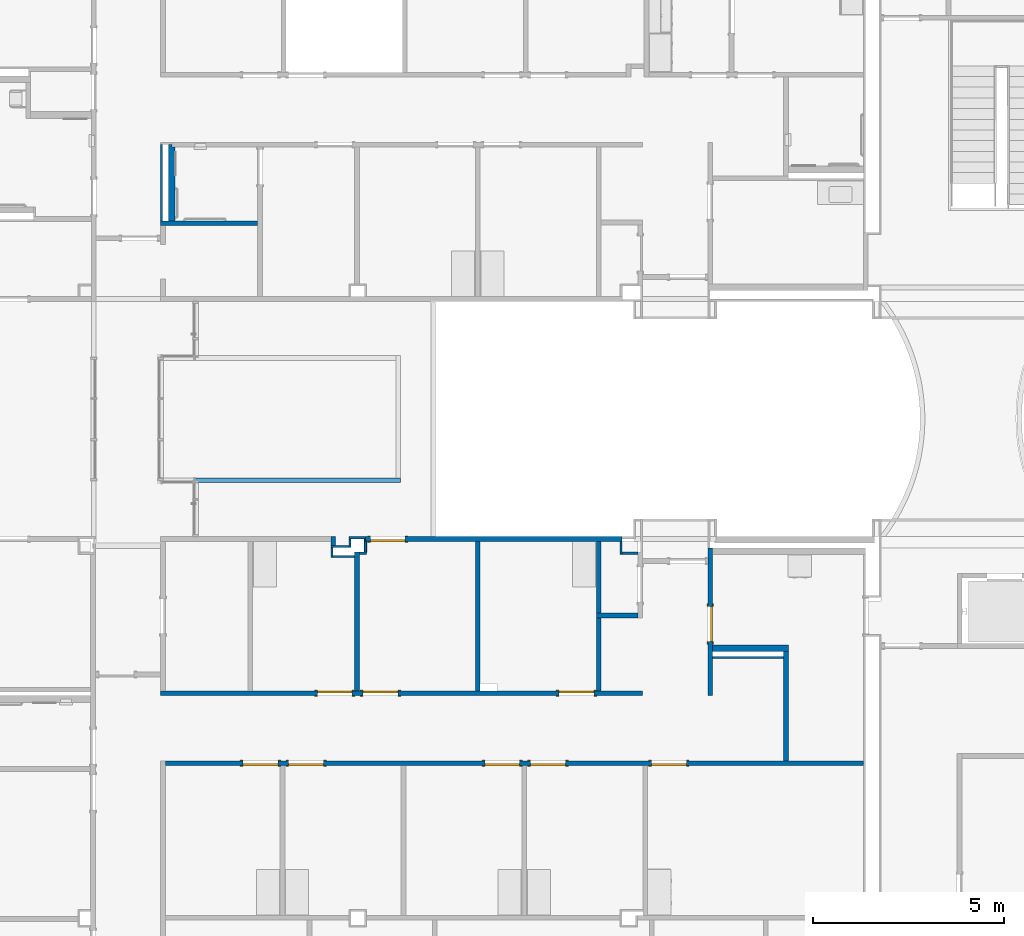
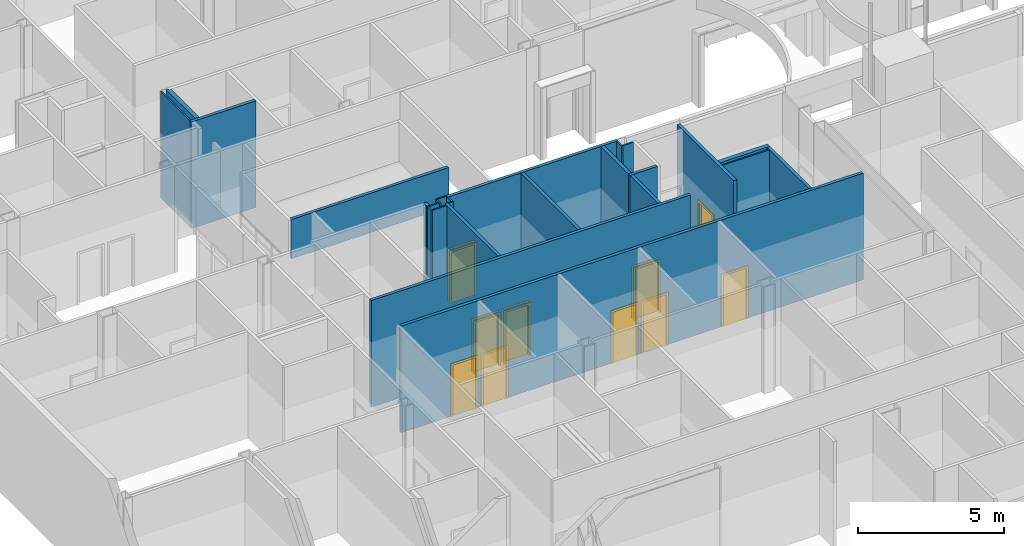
# One storey, part 28 of 87: 26 walls, 10 doors, 10 openings.
"""IFC2X3 building model written with IfcOpenShell, lengths in metres."""

from ifc_helpers import new_model, entity, si_unit, converted_unit, frame, frame_2d, origin, origin_2d_with_axis, place, context, project, spatial, polyline, rectangle, outline, extrude, source, transform, mapped, material, layer, layer_set, layer_usage, type_object, type_shapes, element, fill, save


model = new_model("IFC2X3")

# Units and contexts
model_context = context("Model", 3, precision=1e-09, world=origin())
plan_context = context("Plan", 3, precision=1e-09, world=origin())
ifc_project = project(units=[si_unit("LENGTHUNIT", "METRE"), si_unit("AREAUNIT", "SQUARE_METRE"), si_unit("VOLUMEUNIT", "CUBIC_METRE"), converted_unit("PLANEANGLEUNIT", "DEGREE", entity("IfcRatioMeasure", 0.01745329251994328), si_unit("PLANEANGLEUNIT", "RADIAN"), dimensions=[0, 0, 0, 0, 0, 0, 0]), si_unit("TIMEUNIT", "SECOND")], contexts=[model_context, plan_context])

# Site, building, storey
site_placement = place(None, origin())
site = spatial("IfcSite", under=ifc_project, at=site_placement, Name="Default", CompositionType="ELEMENT")
building_placement = place(site_placement, origin())
building = spatial("IfcBuilding", under=site, at=building_placement, CompositionType="ELEMENT")
storey_placement = place(building_placement, origin())
storey = spatial("IfcBuildingStorey", under=building, at=storey_placement, Name="First Floor", CompositionType="ELEMENT", Elevation=-3.531500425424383e-13)

# Walls
ifc_material_1 = material(Name="Plasterboard")
ifc_layer_1 = layer(ifc_material_1, 0.016)
ifc_material_2 = material(Name="Metal - Stud Layer")
ifc_layer_2 = layer(ifc_material_2, 0.092)
ifc_layer_3 = layer(ifc_material_1, 0.016)
ifc_layer_set_1 = layer_set([ifc_layer_1, ifc_layer_2, ifc_layer_3], Name="Basic Wall:Interior - Partition (92mm Stud)")
ifc_layer_usage_1 = layer_usage(ifc_layer_set_1, "AXIS2", "NEGATIVE", 0.062)
wall_1_placement = place(storey_placement, frame((-36.17400000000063, 36.83199999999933, 0.0), z_axis=(0.0, 0.0, 1.0), x_axis=(-1.0, 0.0, 0.0)))
element("IfcWallStandardCase", 1, at=wall_1_placement, inside=storey, material=ifc_layer_usage_1, Name="Basic Wall:Interior - Partition (92mm Stud)", ObjectType="Basic Wall:Interior - Partition (92mm Stud)", context=model_context, shape_type="SweptSolid", body=[
    extrude(rectangle(XDim=2.545999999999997, YDim=0.1239999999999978, at=frame_2d((1.272999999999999, 0.0), x_axis=(-1.0, 0.0))), origin(), (0.0, 0.0, 1.0), 4.46800000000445),
])
ifc_layer_4 = layer(ifc_material_2, 0.152)
ifc_layer_5 = layer(ifc_material_1, 0.016)
ifc_layer_set_2 = layer_set([ifc_layer_4, ifc_layer_5], Name="Basic Wall:Interior - Furring (152 mm Stud)")
ifc_layer_usage_2 = layer_usage(ifc_layer_set_2, "AXIS2", "POSITIVE", -0.08399999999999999)
wall_2_placement = place(storey_placement, frame((-38.42400000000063, 38.89599999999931, 0.0), z_axis=(0.0, 0.0, 1.0), x_axis=(0.0, -1.0, 0.0)))
element("IfcWallStandardCase", 2, at=wall_2_placement, inside=storey, material=ifc_layer_usage_2, Name="Basic Wall:Interior - Furring (152 mm Stud)", ObjectType="Basic Wall:Interior - Furring (152 mm Stud)", context=model_context, shape_type="SweptSolid", body=[
    extrude(outline(polyline([(2.001999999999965, -0.08400000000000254), (2.001999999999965, 0.08399999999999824), (0.07000000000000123, 0.08399999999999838), (0.07000000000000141, 0.0), (0.0, 0.0), (0.0, -0.08400000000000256), (2.001999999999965, -0.08400000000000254)])), origin(), (0.0, 0.0, 1.0), 4.468000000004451),
])

# Wall, openings, doors
ifc_layer_usage_3 = layer_usage(ifc_layer_set_1, "AXIS2", "NEGATIVE", 0.062)
wall_3_placement = place(storey_placement, frame((-38.59600000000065, 22.6679999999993, 0.0)))
wall_3 = element("IfcWallStandardCase", 3, at=wall_3_placement, inside=storey, material=ifc_layer_usage_3, Name="Basic Wall:Interior - Partition (92mm Stud)", ObjectType="Basic Wall:Interior - Partition (92mm Stud)", context=model_context, shape_type="SweptSolid", body=[
    extrude(rectangle(XDim=18.306, YDim=0.1239999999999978, at=frame_2d((9.152999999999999, 0.0), x_axis=(-1.0, 0.0))), origin(), (0.0, 0.0, 1.0), 4.468000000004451),
])
opening_1_placement = place(wall_3_placement, frame((2.952000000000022, 0.06199999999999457, 0.0)))
opening_1 = element("IfcOpeningElement", 4, at=opening_1_placement, cuts=wall_3, Name="M_Single-Flush:0915 x 2134mm:0915 x 2134mm:1", ObjectType="Opening", context=model_context, shape_type="SweptSolid", body=[
    extrude(rectangle(XDim=0.9149999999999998, YDim=2.134, at=frame_2d((1.067, 0.4574999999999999), x_axis=(0.0, -1.0))), frame((0.0, 0.0, 0.0), z_axis=(0.0, -1.0, 0.0), x_axis=(0.0, 0.0, 1.0)), (0.0, 0.0, 1.0), 0.124),
])
opening_2_placement = place(wall_3_placement, frame((4.151000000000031, 0.06199999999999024, 0.0)))
opening_2 = element("IfcOpeningElement", 5, at=opening_2_placement, cuts=wall_3, Name="M_Single-Flush:0915 x 2134mm:0915 x 2134mm:1", ObjectType="Opening", context=model_context, shape_type="SweptSolid", body=[
    extrude(rectangle(XDim=0.9149999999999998, YDim=2.134, at=frame_2d((1.067, 0.4575), x_axis=(0.0, 1.0))), frame((0.0, 0.0, 0.0), z_axis=(0.0, -1.0, 0.0), x_axis=(0.0, 0.0, 1.0)), (0.0, 0.0, 1.0), 0.124),
])
opening_3_placement = place(wall_3_placement, frame((9.292000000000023, 0.06199999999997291, 0.0)))
opening_3 = element("IfcOpeningElement", 6, at=opening_3_placement, cuts=wall_3, Name="M_Single-Flush:0915 x 2134mm:0915 x 2134mm:1", ObjectType="Opening", context=model_context, shape_type="SweptSolid", body=[
    extrude(rectangle(XDim=0.9149999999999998, YDim=2.134, at=frame_2d((1.067, 0.4574999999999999), x_axis=(0.0, -1.0))), frame((0.0, 0.0, 0.0), z_axis=(0.0, -1.0, 0.0), x_axis=(0.0, 0.0, 1.0)), (0.0, 0.0, 1.0), 0.124),
])
opening_4_placement = place(wall_3_placement, frame((10.49100000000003, 0.06199999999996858, 0.0)))
opening_4 = element("IfcOpeningElement", 7, at=opening_4_placement, cuts=wall_3, Name="M_Single-Flush:0915 x 2134mm:0915 x 2134mm:1", ObjectType="Opening", context=model_context, shape_type="SweptSolid", body=[
    extrude(rectangle(XDim=0.9149999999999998, YDim=2.134, at=frame_2d((1.067, 0.4575), x_axis=(0.0, 1.0))), frame((0.0, 0.0, 0.0), z_axis=(0.0, -1.0, 0.0), x_axis=(0.0, 0.0, 1.0)), (0.0, 0.0, 1.0), 0.124),
])
opening_5_placement = place(wall_3_placement, frame((13.66100000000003, 0.06199999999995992, 0.0)))
opening_5 = element("IfcOpeningElement", 8, at=opening_5_placement, cuts=wall_3, Name="M_Single-Flush:0915 x 2134mm:0915 x 2134mm:1", ObjectType="Opening", context=model_context, shape_type="SweptSolid", body=[
    extrude(rectangle(XDim=0.9149999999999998, YDim=2.134, at=frame_2d((1.067, 0.4575), x_axis=(0.0, 1.0))), frame((0.0, 0.0, 0.0), z_axis=(0.0, -1.0, 0.0), x_axis=(0.0, 0.0, 1.0)), (0.0, 0.0, 1.0), 0.124),
])
door_style_1 = type_object("IfcDoorStyle", Name="0915 x 2134mm", ConstructionType="NOTDEFINED", OperationType="SINGLE_SWING_RIGHT", ParameterTakesPrecedence=False, Sizeable=False)
shared_shape_1 = source(origin(), model_context, "Body", "SweptSolid", [
    extrude(outline(polyline([(-0.5335, -1.123999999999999), (0.5334999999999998, -1.123999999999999), (0.5334999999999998, 1.086), (0.4574999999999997, 1.086), (0.4574999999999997, -1.048000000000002), (-0.4574999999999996, -1.048000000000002), (-0.4574999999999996, 1.086), (-0.5335, 1.086), (-0.5335, -1.123999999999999)])), frame((0.4575000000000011, 0.1239999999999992, 1.086), z_axis=(0.0, 1.0, 0.0), x_axis=(1.0, 0.0, 0.0)), (0.0, 0.0, 1.0), 0.02499999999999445),
    extrude(outline(polyline([(-1.123999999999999, -0.5334999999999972), (1.085999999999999, -0.5334999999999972), (1.085999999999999, -0.4575000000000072), (-1.048, -0.4575000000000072), (-1.048, 0.4575000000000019), (1.085999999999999, 0.4575000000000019), (1.085999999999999, 0.5335000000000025), (-1.123999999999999, 0.5335000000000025), (-1.123999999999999, -0.5334999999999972)])), frame((0.4575000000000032, -0.02500000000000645, 1.085999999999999), z_axis=(0.0, 1.0, 0.0), x_axis=(0.0, 0.0, -1.0)), (0.0, 0.0, 1.0), 0.02500000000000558),
    extrude(rectangle(XDim=0.051, YDim=0.9149999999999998, at=origin_2d_with_axis()), frame((0.4575000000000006, 0.09849999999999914, 0.0), z_axis=(0.0, 0.0, 1.0), x_axis=(0.0, 1.0, 0.0)), (0.0, 0.0, 1.0), 2.133999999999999),
])
type_shapes(door_style_1, [shared_shape_1])
door_1_placement = place(opening_2_placement, frame((0.0, 0.0, 0.0), z_axis=(0.0, 0.0, 1.0), x_axis=(-1.0, 0.0, 0.0)))
door_1 = element("IfcDoor", 9, at=door_1_placement, inside=storey, type_object=door_style_1, Name="M_Single-Flush:0915 x 2134mm:0915 x 2134mm", ObjectType="0915 x 2134mm", OverallHeight=2.134, OverallWidth=0.9149999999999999, context=model_context, shape_type="MappedRepresentation", body=[
    mapped(shared_shape_1, transform((0.0, 0.0, 0.0), scale=1.0)),
])
fill(opening_2, door_1)
door_2_placement = place(opening_4_placement, frame((0.0, 0.0, 0.0), z_axis=(0.0, 0.0, 1.0), x_axis=(-1.0, 0.0, 0.0)))
door_2 = element("IfcDoor", 10, at=door_2_placement, inside=storey, type_object=door_style_1, Name="M_Single-Flush:0915 x 2134mm:0915 x 2134mm", ObjectType="0915 x 2134mm", OverallHeight=2.134, OverallWidth=0.9149999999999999, context=model_context, shape_type="MappedRepresentation", body=[
    mapped(shared_shape_1, transform((0.0, 0.0, 0.0), scale=1.0)),
])
fill(opening_4, door_2)
door_3_placement = place(opening_5_placement, frame((0.0, 0.0, 0.0), z_axis=(0.0, 0.0, 1.0), x_axis=(-1.0, 0.0, 0.0)))
door_3 = element("IfcDoor", 11, at=door_3_placement, inside=storey, type_object=door_style_1, Name="M_Single-Flush:0915 x 2134mm:0915 x 2134mm", ObjectType="0915 x 2134mm", OverallHeight=2.134, OverallWidth=0.9149999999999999, context=model_context, shape_type="MappedRepresentation", body=[
    mapped(shared_shape_1, transform((0.0, 0.0, 0.0), scale=1.0)),
])
fill(opening_5, door_3)
door_style_2 = type_object("IfcDoorStyle", Name="0915 x 2134mm", ConstructionType="NOTDEFINED", OperationType="SINGLE_SWING_LEFT", ParameterTakesPrecedence=False, Sizeable=False)
shared_shape_2 = source(origin(), model_context, "Body", "SweptSolid", [
    extrude(outline(polyline([(-0.5335, -1.123999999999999), (0.5334999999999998, -1.123999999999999), (0.5334999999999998, 1.086), (0.4574999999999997, 1.086), (0.4574999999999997, -1.048000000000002), (-0.4574999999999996, -1.048000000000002), (-0.4574999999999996, 1.086), (-0.5335, 1.086), (-0.5335, -1.123999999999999)])), frame((0.4575000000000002, 0.1489999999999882, 1.086), z_axis=(0.0, -1.0, 0.0), x_axis=(-1.0, 0.0, 0.0)), (0.0, 0.0, 1.0), 0.02499999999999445),
    extrude(outline(polyline([(-1.123999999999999, -0.5334999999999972), (1.085999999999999, -0.5334999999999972), (1.085999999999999, -0.4575000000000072), (-1.048, -0.4575000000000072), (-1.048, 0.4575000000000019), (1.085999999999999, 0.4575000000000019), (1.085999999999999, 0.5335000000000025), (-1.123999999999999, 0.5335000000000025), (-1.123999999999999, -0.5334999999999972)])), frame((0.4574999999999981, 0.0, 1.085999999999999), z_axis=(0.0, -1.0, 0.0), x_axis=(0.0, 0.0, -1.0)), (0.0, 0.0, 1.0), 0.02500000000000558),
    extrude(rectangle(XDim=0.9149999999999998, YDim=0.051, at=origin_2d_with_axis()), frame((0.4575000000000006, 0.09849999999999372, 0.0)), (0.0, 0.0, 1.0), 2.133999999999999),
])
type_shapes(door_style_2, [shared_shape_2])
door_4_placement = place(opening_1_placement, frame((0.0, 0.0, 0.0), z_axis=(0.0, 0.0, 1.0), x_axis=(-1.0, 0.0, 0.0)))
door_4 = element("IfcDoor", 12, at=door_4_placement, inside=storey, type_object=door_style_2, Name="M_Single-Flush:0915 x 2134mm:0915 x 2134mm", ObjectType="0915 x 2134mm", OverallHeight=2.134, OverallWidth=0.9149999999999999, context=model_context, shape_type="MappedRepresentation", body=[
    mapped(shared_shape_2, transform((0.0, 0.0, 0.0), scale=1.0)),
])
fill(opening_1, door_4)
door_5_placement = place(opening_3_placement, frame((0.0, 0.0, 0.0), z_axis=(0.0, 0.0, 1.0), x_axis=(-1.0, 0.0, 0.0)))
door_5 = element("IfcDoor", 13, at=door_5_placement, inside=storey, type_object=door_style_2, Name="M_Single-Flush:0915 x 2134mm:0915 x 2134mm", ObjectType="0915 x 2134mm", OverallHeight=2.134, OverallWidth=0.9149999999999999, context=model_context, shape_type="MappedRepresentation", body=[
    mapped(shared_shape_2, transform((0.0, 0.0, 0.0), scale=1.0)),
])
fill(opening_3, door_5)

# Wall, opening, door
ifc_layer_usage_4 = layer_usage(ifc_layer_set_1, "AXIS2", "NEGATIVE", 0.062)
wall_4_placement = place(storey_placement, frame((-24.30800000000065, 24.43999999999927, 0.0), z_axis=(0.0, 0.0, 1.0), x_axis=(0.0, 1.0, 0.0)))
wall_4 = element("IfcWallStandardCase", 14, at=wall_4_placement, inside=storey, material=ifc_layer_usage_4, Name="Basic Wall:Interior - Partition (92mm Stud)", ObjectType="Basic Wall:Interior - Partition (92mm Stud)", context=model_context, shape_type="SweptSolid", body=[
    extrude(rectangle(XDim=3.878000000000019, YDim=0.1239999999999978, at=frame_2d((1.93900000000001, 0.0), x_axis=(-1.0, 0.0))), origin(), (0.0, 0.0, 1.0), 4.46800000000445),
])
opening_6_placement = place(wall_4_placement, frame((2.341000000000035, 0.0619999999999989, 0.0)))
opening_6 = element("IfcOpeningElement", 15, at=opening_6_placement, cuts=wall_4, Name="M_Single-Flush:0915 x 2134mm:0915 x 2134mm:1", ObjectType="Opening", context=model_context, shape_type="SweptSolid", body=[
    extrude(rectangle(XDim=0.9149999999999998, YDim=2.134, at=frame_2d((1.067, 0.4575), x_axis=(0.0, 1.0))), frame((0.0, 0.0, 0.0), z_axis=(0.0, -1.0, 0.0), x_axis=(0.0, 0.0, 1.0)), (0.0, 0.0, 1.0), 0.124),
])
door_6_placement = place(opening_6_placement, frame((0.0, 0.0, 0.0), z_axis=(0.0, 0.0, 1.0), x_axis=(-1.0, 0.0, 0.0)))
door_6 = element("IfcDoor", 16, at=door_6_placement, inside=storey, type_object=door_style_1, Name="M_Single-Flush:0915 x 2134mm:0915 x 2134mm", ObjectType="0915 x 2134mm", OverallHeight=2.134, OverallWidth=0.9149999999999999, context=model_context, shape_type="MappedRepresentation", body=[
    mapped(shared_shape_1, transform((0.0, 0.0, 0.0), scale=1.0)),
])
fill(opening_6, door_6)

# Walls
ifc_layer_usage_5 = layer_usage(ifc_layer_set_1, "AXIS2", "NEGATIVE", 0.062)
wall_5_placement = place(storey_placement, frame((-22.31800000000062, 22.72999999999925, 0.0), z_axis=(0.0, 0.0, 1.0), x_axis=(0.0, 1.0, 0.0)))
element("IfcWallStandardCase", 17, at=wall_5_placement, inside=storey, material=ifc_layer_usage_5, Name="Basic Wall:Interior - Partition (92mm Stud)", ObjectType="Basic Wall:Interior - Partition (92mm Stud)", context=model_context, shape_type="SweptSolid", body=[
    extrude(rectangle(XDim=2.86800000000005, YDim=0.1239999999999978, at=frame_2d((1.434000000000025, 0.0), x_axis=(-1.0, 0.0))), origin(), (0.0, 0.0, 1.0), 4.46800000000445),
])
ifc_layer_6 = layer(ifc_material_2, 0.038)
ifc_layer_7 = layer(ifc_material_1, 0.016)
ifc_layer_set_3 = layer_set([ifc_layer_6, ifc_layer_7], Name="Basic Wall:Interior - Furring (38 mm Stud)")
ifc_layer_usage_6 = layer_usage(ifc_layer_set_3, "AXIS2", "POSITIVE", -0.027)
wall_6_placement = place(storey_placement, frame((-22.38000000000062, 25.44699999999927, 0.0), z_axis=(0.0, 0.0, 1.0), x_axis=(-1.0, 0.0, 0.0)))
element("IfcWallStandardCase", 18, at=wall_6_placement, inside=storey, material=ifc_layer_usage_6, Name="Basic Wall:Interior - Furring (38 mm Stud)", ObjectType="Basic Wall:Interior - Furring (38 mm Stud)", context=model_context, shape_type="SweptSolid", body=[
    extrude(rectangle(XDim=1.866000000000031, YDim=0.05399999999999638, at=frame_2d((0.9330000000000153, 0.0), x_axis=(-1.0, 0.0))), origin(), (0.0, 0.0, 1.0), 4.46800000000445),
])
ifc_layer_usage_7 = layer_usage(ifc_layer_set_2, "AXIS2", "POSITIVE", -0.08399999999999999)
wall_7_placement = place(storey_placement, frame((-24.24600000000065, 25.6819999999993, 0.0)))
element("IfcWallStandardCase", 19, at=wall_7_placement, inside=storey, material=ifc_layer_usage_7, Name="Basic Wall:Interior - Furring (152 mm Stud)", ObjectType="Basic Wall:Interior - Furring (152 mm Stud)", context=model_context, shape_type="SweptSolid", body=[
    extrude(rectangle(XDim=1.990000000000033, YDim=0.1679999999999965, at=frame_2d((0.9950000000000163, 0.0), x_axis=(-1.0, 0.0))), origin(), (0.0, 0.0, 1.0), 4.46800000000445),
])
ifc_layer_usage_8 = layer_usage(ifc_layer_set_1, "AXIS2", "NEGATIVE", 0.062)
wall_8_placement = place(storey_placement, frame((-26.20400000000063, 26.54199999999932, 0.0), z_axis=(0.0, 0.0, 1.0), x_axis=(-1.0, 0.0, 0.0)))
element("IfcWallStandardCase", 20, at=wall_8_placement, inside=storey, material=ifc_layer_usage_8, Name="Basic Wall:Interior - Partition (92mm Stud)", ObjectType="Basic Wall:Interior - Partition (92mm Stud)", context=model_context, shape_type="SweptSolid", body=[
    extrude(rectangle(XDim=1.089999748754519, YDim=0.1239999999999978, at=frame_2d((0.5449998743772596, 0.0), x_axis=(-1.0, 0.0))), origin(), (0.0, 0.0, 1.0), 4.46800000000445),
])
ifc_layer_usage_9 = layer_usage(ifc_layer_set_1, "AXIS2", "NEGATIVE", 0.062)
wall_9_placement = place(storey_placement, frame((-27.23199974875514, 26.47999999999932, 0.0), z_axis=(0.0, 0.0, 1.0), x_axis=(0.0, -1.0, 0.0)))
element("IfcWallStandardCase", 21, at=wall_9_placement, inside=storey, material=ifc_layer_usage_9, Name="Basic Wall:Interior - Partition (92mm Stud)", ObjectType="Basic Wall:Interior - Partition (92mm Stud)", context=model_context, shape_type="SweptSolid", body=[
    extrude(rectangle(XDim=1.916000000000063, YDim=0.1239999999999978, at=frame_2d((0.9580000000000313, 0.0), x_axis=(-1.0, 0.0))), origin(), (0.0, 0.0, 1.0), 4.46800000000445),
])
ifc_layer_usage_10 = layer_usage(ifc_layer_set_1, "AXIS2", "NEGATIVE", 0.062)
wall_10_placement = place(storey_placement, frame((-27.23199974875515, 26.60399999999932, 0.0), z_axis=(0.0, 0.0, 1.0), x_axis=(0.0, 1.0, 0.0)))
element("IfcWallStandardCase", 22, at=wall_10_placement, inside=storey, material=ifc_layer_usage_10, Name="Basic Wall:Interior - Partition (92mm Stud)", ObjectType="Basic Wall:Interior - Partition (92mm Stud)", context=model_context, shape_type="SweptSolid", body=[
    extrude(rectangle(XDim=1.881999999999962, YDim=0.1239999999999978, at=frame_2d((0.940999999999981, 0.0), x_axis=(-1.0, 0.0))), origin(), (0.0, 0.0, 1.0), 4.46800000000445),
])
ifc_layer_usage_11 = layer_usage(ifc_layer_set_1, "AXIS2", "NEGATIVE", 0.062)
wall_11_placement = place(storey_placement, frame((-30.40200000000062, 28.48599999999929, 0.0), z_axis=(0.0, 0.0, 1.0), x_axis=(0.0, -1.0, 0.0)))
element("IfcWallStandardCase", 23, at=wall_11_placement, inside=storey, material=ifc_layer_usage_11, Name="Basic Wall:Interior - Partition (92mm Stud)", ObjectType="Basic Wall:Interior - Partition (92mm Stud)", context=model_context, shape_type="SweptSolid", body=[
    extrude(rectangle(XDim=3.922000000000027, YDim=0.1239999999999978, at=frame_2d((1.961000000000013, 0.0), x_axis=(-1.0, 0.0))), origin(), (0.0, 0.0, 1.0), 4.46800000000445),
])
ifc_layer_usage_12 = layer_usage(ifc_layer_set_1, "AXIS2", "NEGATIVE", 0.062)
wall_12_placement = place(storey_placement, frame((-33.57200000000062, 28.20399999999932, 0.0), z_axis=(0.0, 0.0, 1.0), x_axis=(0.0, -1.0, 0.0)))
element("IfcWallStandardCase", 24, at=wall_12_placement, inside=storey, material=ifc_layer_usage_12, Name="Basic Wall:Interior - Partition (92mm Stud)", ObjectType="Basic Wall:Interior - Partition (92mm Stud)", context=model_context, shape_type="SweptSolid", body=[
    extrude(rectangle(XDim=3.640000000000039, YDim=0.1239999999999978, at=frame_2d((1.820000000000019, 0.0), x_axis=(-1.0, 0.0))), origin(), (0.0, 0.0, 1.0), 4.46800000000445),
])

# Wall, opening, door
ifc_layer_usage_13 = layer_usage(ifc_layer_set_1, "AXIS2", "NEGATIVE", 0.062)
wall_13_placement = place(storey_placement, frame((-33.34700000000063, 28.54799999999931, 0.0)))
wall_13 = element("IfcWallStandardCase", 25, at=wall_13_placement, inside=storey, material=ifc_layer_usage_13, Name="Basic Wall:Interior - Partition (92mm Stud)", ObjectType="Basic Wall:Interior - Partition (92mm Stud)", context=model_context, shape_type="SweptSolid", body=[
    extrude(rectangle(XDim=6.730999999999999, YDim=0.1239999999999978, at=frame_2d((3.3655, 0.0), x_axis=(-1.0, 0.0))), origin(), (0.0, 0.0, 1.0), 4.46800000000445),
])
opening_7_placement = place(wall_13_placement, frame((1.042000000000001, 0.0619999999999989, 0.0)))
opening_7 = element("IfcOpeningElement", 26, at=opening_7_placement, cuts=wall_13, Name="M_Single-Flush:0915 x 2134mm:0915 x 2134mm:1", ObjectType="Opening", context=model_context, shape_type="SweptSolid", body=[
    extrude(rectangle(XDim=0.9149999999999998, YDim=2.134, at=frame_2d((1.067, 0.4575), x_axis=(0.0, 1.0))), frame((0.0, 0.0, 0.0), z_axis=(0.0, -1.0, 0.0), x_axis=(0.0, 0.0, 1.0)), (0.0, 0.0, 1.0), 0.124),
])
door_7_placement = place(opening_7_placement, frame((0.0, 0.0, 0.0), z_axis=(0.0, 0.0, 1.0), x_axis=(-1.0, 0.0, 0.0)))
door_7 = element("IfcDoor", 27, at=door_7_placement, inside=storey, type_object=door_style_1, Name="M_Single-Flush:0915 x 2134mm:0915 x 2134mm", ObjectType="0915 x 2134mm", OverallHeight=2.134, OverallWidth=0.9149999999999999, context=model_context, shape_type="MappedRepresentation", body=[
    mapped(shared_shape_1, transform((0.0, 0.0, 0.0), scale=1.0)),
])
fill(opening_7, door_7)

# Walls
ifc_layer_usage_14 = layer_usage(ifc_layer_set_1, "AXIS2", "NEGATIVE", 0.062)
wall_14_placement = place(storey_placement, frame((-34.1920000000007, 28.60999999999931, 0.0), z_axis=(0.0, 0.0, 1.0), x_axis=(0.0, -1.0, 0.0)))
element("IfcWallStandardCase", 28, at=wall_14_placement, inside=storey, material=ifc_layer_usage_14, Name="Basic Wall:Interior - Partition (92mm Stud)", ObjectType="Basic Wall:Interior - Partition (92mm Stud)", context=model_context, shape_type="SweptSolid", body=[
    extrude(rectangle(XDim=0.2300000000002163, YDim=0.1239999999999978, at=frame_2d((0.1150000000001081, 0.0), x_axis=(-1.0, 0.0))), origin(), (0.0, 0.0, 1.0), 4.46800000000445),
])
ifc_layer_usage_15 = layer_usage(ifc_layer_set_1, "AXIS2", "NEGATIVE", 0.062)
wall_15_placement = place(storey_placement, frame((-38.64500000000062, 30.09299999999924, 2.8)))
element("IfcWallStandardCase", 29, at=wall_15_placement, inside=storey, material=ifc_layer_usage_15, Name="Basic Wall:Interior - Partition (92mm Stud)", ObjectType="Basic Wall:Interior - Partition (92mm Stud)", context=model_context, shape_type="SweptSolid", body=[
    extrude(rectangle(XDim=6.220000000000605, YDim=0.1239999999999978, at=frame_2d((3.110000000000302, 0.0), x_axis=(-1.0, 0.0))), origin(), (0.0, 0.0, 1.0), 1.650000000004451),
])
ifc_layer_usage_16 = layer_usage(ifc_layer_set_3, "AXIS2", "NEGATIVE", 0.027)
wall_16_placement = place(storey_placement, frame((-26.64300000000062, 28.48599999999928, 0.0), z_axis=(0.0, 0.0, 1.0), x_axis=(0.0, -1.0, 0.0)))
element("IfcWallStandardCase", 30, at=wall_16_placement, inside=storey, material=ifc_layer_usage_16, Name="Basic Wall:Interior - Furring (38 mm Stud)", ObjectType="Basic Wall:Interior - Furring (38 mm Stud)", context=model_context, shape_type="SweptSolid", body=[
    extrude(rectangle(XDim=0.3359999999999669, YDim=0.05399999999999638, at=frame_2d((0.1679999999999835, 0.0), x_axis=(-1.0, 0.0))), origin(), (0.0, 0.0, 1.0), 4.46800000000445),
])
ifc_layer_usage_17 = layer_usage(ifc_layer_set_3, "AXIS2", "NEGATIVE", 0.027)
wall_17_placement = place(storey_placement, frame((-26.61600000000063, 28.17699999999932, 0.0)))
element("IfcWallStandardCase", 31, at=wall_17_placement, inside=storey, material=ifc_layer_usage_17, Name="Basic Wall:Interior - Furring (38 mm Stud)", ObjectType="Basic Wall:Interior - Furring (38 mm Stud)", context=model_context, shape_type="SweptSolid", body=[
    extrude(rectangle(XDim=0.4119999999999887, YDim=0.05399999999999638, at=frame_2d((0.2059999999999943, 0.0), x_axis=(-1.0, 0.0))), origin(), (0.0, 0.0, 1.0), 4.46800000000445),
])
ifc_layer_usage_18 = layer_usage(ifc_layer_set_3, "AXIS2", "NEGATIVE", 0.027)
wall_18_placement = place(storey_placement, frame((-33.34700000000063, 28.58299999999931, 0.0), z_axis=(0.0, 0.0, 1.0), x_axis=(-1.0, 0.0, 0.0)))
element("IfcWallStandardCase", 32, at=wall_18_placement, inside=storey, material=ifc_layer_usage_18, Name="Basic Wall:Interior - Furring (38 mm Stud)", ObjectType="Basic Wall:Interior - Furring (38 mm Stud)", context=model_context, shape_type="SweptSolid", body=[
    extrude(rectangle(XDim=0.4330000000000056, YDim=0.05399999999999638, at=frame_2d((0.2165000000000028, 0.0), x_axis=(-1.0, 0.0))), origin(), (0.0, 0.0, 1.0), 4.468000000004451),
])
ifc_layer_usage_19 = layer_usage(ifc_layer_set_3, "AXIS2", "NEGATIVE", 0.027)
wall_19_placement = place(storey_placement, frame((-33.75300000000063, 28.55599999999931, 0.0), z_axis=(0.0, 0.0, 1.0), x_axis=(0.0, -1.0, 0.0)))
element("IfcWallStandardCase", 33, at=wall_19_placement, inside=storey, material=ifc_layer_usage_19, Name="Basic Wall:Interior - Furring (38 mm Stud)", ObjectType="Basic Wall:Interior - Furring (38 mm Stud)", context=model_context, shape_type="SweptSolid", body=[
    extrude(rectangle(XDim=0.2300000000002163, YDim=0.05399999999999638, at=frame_2d((0.1150000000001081, 0.0), x_axis=(-1.0, 0.0))), origin(), (0.0, 0.0, 1.0), 4.46800000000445),
])
ifc_layer_usage_20 = layer_usage(ifc_layer_set_3, "AXIS2", "NEGATIVE", 0.027)
wall_20_placement = place(storey_placement, frame((-33.78000000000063, 28.35299999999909, 0.0), z_axis=(0.0, 0.0, 1.0), x_axis=(-1.0, 0.0, 0.0)))
element("IfcWallStandardCase", 34, at=wall_20_placement, inside=storey, material=ifc_layer_usage_20, Name="Basic Wall:Interior - Furring (38 mm Stud)", ObjectType="Basic Wall:Interior - Furring (38 mm Stud)", context=model_context, shape_type="SweptSolid", body=[
    extrude(rectangle(XDim=0.4740000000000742, YDim=0.05399999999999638, at=frame_2d((0.2370000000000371, 0.0), x_axis=(-1.0, 0.0))), origin(), (0.0, 0.0, 1.0), 4.468000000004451),
])
ifc_layer_usage_21 = layer_usage(ifc_layer_set_3, "AXIS2", "NEGATIVE", 0.027)
wall_21_placement = place(storey_placement, frame((-34.2270000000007, 28.32599999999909, 0.0), z_axis=(0.0, 0.0, 1.0), x_axis=(0.0, -1.0, 0.0)))
element("IfcWallStandardCase", 35, at=wall_21_placement, inside=storey, material=ifc_layer_usage_21, Name="Basic Wall:Interior - Furring (38 mm Stud)", ObjectType="Basic Wall:Interior - Furring (38 mm Stud)", context=model_context, shape_type="SweptSolid", body=[
    extrude(rectangle(XDim=0.261000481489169, YDim=0.05399999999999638, at=frame_2d((0.1305002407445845, 0.0), x_axis=(-1.0, 0.0))), origin(), (0.0, 0.0, 1.0), 4.46800000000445),
])
ifc_layer_usage_22 = layer_usage(ifc_layer_set_3, "AXIS2", "NEGATIVE", 0.027)
wall_22_placement = place(storey_placement, frame((-34.2000000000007, 28.09199951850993, 0.0)))
element("IfcWallStandardCase", 36, at=wall_22_placement, inside=storey, material=ifc_layer_usage_22, Name="Basic Wall:Interior - Furring (38 mm Stud)", ObjectType="Basic Wall:Interior - Furring (38 mm Stud)", context=model_context, shape_type="SweptSolid", body=[
    extrude(rectangle(XDim=0.5660000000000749, YDim=0.05399999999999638, at=frame_2d((0.2830000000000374, 0.0), x_axis=(-1.0, 0.0))), origin(), (0.0, 0.0, 1.0), 4.46800000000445),
])
ifc_layer_usage_23 = layer_usage(ifc_layer_set_3, "AXIS2", "NEGATIVE", 0.027)
wall_23_placement = place(storey_placement, frame((-33.51000000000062, 28.17699999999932, 0.0)))
element("IfcWallStandardCase", 37, at=wall_23_placement, inside=storey, material=ifc_layer_usage_23, Name="Basic Wall:Interior - Furring (38 mm Stud)", ObjectType="Basic Wall:Interior - Furring (38 mm Stud)", context=model_context, shape_type="SweptSolid", body=[
    extrude(rectangle(XDim=0.1900000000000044, YDim=0.05399999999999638, at=frame_2d((0.09500000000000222, 0.0), x_axis=(-1.0, 0.0))), origin(), (0.0, 0.0, 1.0), 4.46800000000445),
])
ifc_layer_usage_24 = layer_usage(ifc_layer_set_3, "AXIS2", "NEGATIVE", 0.027)
wall_24_placement = place(storey_placement, frame((-33.34700000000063, 28.20399999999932, 0.0), z_axis=(0.0, 0.0, 1.0), x_axis=(0.0, 1.0, 0.0)))
element("IfcWallStandardCase", 38, at=wall_24_placement, inside=storey, material=ifc_layer_usage_24, Name="Basic Wall:Interior - Furring (38 mm Stud)", ObjectType="Basic Wall:Interior - Furring (38 mm Stud)", context=model_context, shape_type="SweptSolid", body=[
    extrude(outline(polyline([(0.2819999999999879, -0.02700000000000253), (0.2819999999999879, 0.0), (0.3519999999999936, 0.0), (0.3519999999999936, 0.02699999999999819), (0.0, 0.02699999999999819), (0.0, -0.02700000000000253), (0.2819999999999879, -0.02700000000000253)])), origin(), (0.0, 0.0, 1.0), 4.468000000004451),
])

# Wall, openings, doors
ifc_layer_usage_25 = layer_usage(ifc_layer_set_1, "AXIS2", "NEGATIVE", 0.062)
wall_25_placement = place(storey_placement, frame((-26.08000000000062, 24.50199999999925, 0.0), z_axis=(0.0, 0.0, 1.0), x_axis=(-1.0, 0.0, 0.0)))
wall_25 = element("IfcWallStandardCase", 39, at=wall_25_placement, inside=storey, material=ifc_layer_usage_25, Name="Basic Wall:Interior - Partition (92mm Stud)", ObjectType="Basic Wall:Interior - Partition (92mm Stud)", context=model_context, shape_type="SweptSolid", body=[
    extrude(rectangle(XDim=12.64, YDim=0.1239999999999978, at=frame_2d((6.319999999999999, 0.0), x_axis=(-1.0, 0.0))), origin(), (0.0, 0.0, 1.0), 4.468000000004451),
])
opening_8_placement = place(wall_25_placement, frame((8.52900000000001, 0.06199999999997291, 0.0)))
opening_8 = element("IfcOpeningElement", 40, at=opening_8_placement, cuts=wall_25, Name=":1", ObjectType="Opening", context=model_context, shape_type="SweptSolid", body=[
    extrude(rectangle(XDim=0.9149999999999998, YDim=2.134, at=frame_2d((1.067, 0.4575), x_axis=(0.0, 1.0))), frame((0.0, 0.0, 0.0), z_axis=(0.0, -1.0, 0.0), x_axis=(0.0, 0.0, 1.0)), (0.0, 0.0, 1.0), 0.124),
])
opening_9_placement = place(wall_25_placement, frame((7.330000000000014, 0.06199999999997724, 0.0)))
opening_9 = element("IfcOpeningElement", 41, at=opening_9_placement, cuts=wall_25, Name=":1", ObjectType="Opening", context=model_context, shape_type="SweptSolid", body=[
    extrude(rectangle(XDim=0.9149999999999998, YDim=2.134, at=frame_2d((1.067, 0.4574999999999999), x_axis=(0.0, -1.0))), frame((0.0, 0.0, 0.0), z_axis=(0.0, -1.0, 0.0), x_axis=(0.0, 0.0, 1.0)), (0.0, 0.0, 1.0), 0.124),
])
opening_10_placement = place(wall_25_placement, frame((2.188999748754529, 0.06199999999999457, 0.0)))
opening_10 = element("IfcOpeningElement", 42, at=opening_10_placement, cuts=wall_25, Name=":1", ObjectType="Opening", context=model_context, shape_type="SweptSolid", body=[
    extrude(rectangle(XDim=0.9149999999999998, YDim=2.134, at=frame_2d((1.067, 0.4575), x_axis=(0.0, 1.0))), frame((0.0, 0.0, 0.0), z_axis=(0.0, -1.0, 0.0), x_axis=(0.0, 0.0, 1.0)), (0.0, 0.0, 1.0), 0.124),
])
door_8_placement = place(opening_8_placement, frame((0.0, 0.0, 0.0), z_axis=(0.0, 0.0, 1.0), x_axis=(-1.0, 0.0, 0.0)))
door_8 = element("IfcDoor", 43, at=door_8_placement, inside=storey, type_object=door_style_1, Name="M_Single-Flush:0915 x 2134mm:0915 x 2134mm", ObjectType="0915 x 2134mm", OverallHeight=2.134, OverallWidth=0.9149999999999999, context=model_context, shape_type="MappedRepresentation", body=[
    mapped(shared_shape_1, transform((0.0, 0.0, 0.0), scale=1.0)),
])
fill(opening_8, door_8)
door_9_placement = place(opening_10_placement, frame((0.0, 0.0, 0.0), z_axis=(0.0, 0.0, 1.0), x_axis=(-1.0, 0.0, 0.0)))
door_9 = element("IfcDoor", 44, at=door_9_placement, inside=storey, type_object=door_style_1, Name="M_Single-Flush:0915 x 2134mm:0915 x 2134mm", ObjectType="0915 x 2134mm", OverallHeight=2.134, OverallWidth=0.9149999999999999, context=model_context, shape_type="MappedRepresentation", body=[
    mapped(shared_shape_1, transform((0.0, 0.0, 0.0), scale=1.0)),
])
fill(opening_10, door_9)
door_10_placement = place(opening_9_placement, frame((0.0, 0.0, 0.0), z_axis=(0.0, 0.0, 1.0), x_axis=(-1.0, 0.0, 0.0)))
door_10 = element("IfcDoor", 45, at=door_10_placement, inside=storey, type_object=door_style_2, Name="M_Single-Flush:0915 x 2134mm:0915 x 2134mm", ObjectType="0915 x 2134mm", OverallHeight=2.134, OverallWidth=0.9149999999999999, context=model_context, shape_type="MappedRepresentation", body=[
    mapped(shared_shape_2, transform((0.0, 0.0, 0.0), scale=1.0)),
])
fill(opening_9, door_10)

# Wall
ifc_layer_usage_26 = layer_usage(ifc_layer_set_3, "AXIS2", "NEGATIVE", 0.027)
wall_26_placement = place(storey_placement, frame((-38.69300000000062, 38.89599999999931, 0.0), z_axis=(0.0, 0.0, 1.0), x_axis=(0.0, -1.0, 0.0)))
element("IfcWallStandardCase", 46, at=wall_26_placement, inside=storey, material=ifc_layer_usage_26, Name="Basic Wall:Interior - Furring (38 mm Stud)", ObjectType="Basic Wall:Interior - Furring (38 mm Stud)", context=model_context, shape_type="SweptSolid", body=[
    extrude(rectangle(XDim=2.001999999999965, YDim=0.05399999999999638, at=frame_2d((1.000999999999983, 0.0), x_axis=(-1.0, 0.0))), origin(), (0.0, 0.0, 1.0), 4.46800000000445),
])

save(model, "model.ifc")
